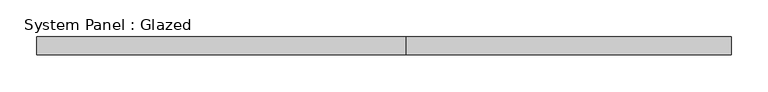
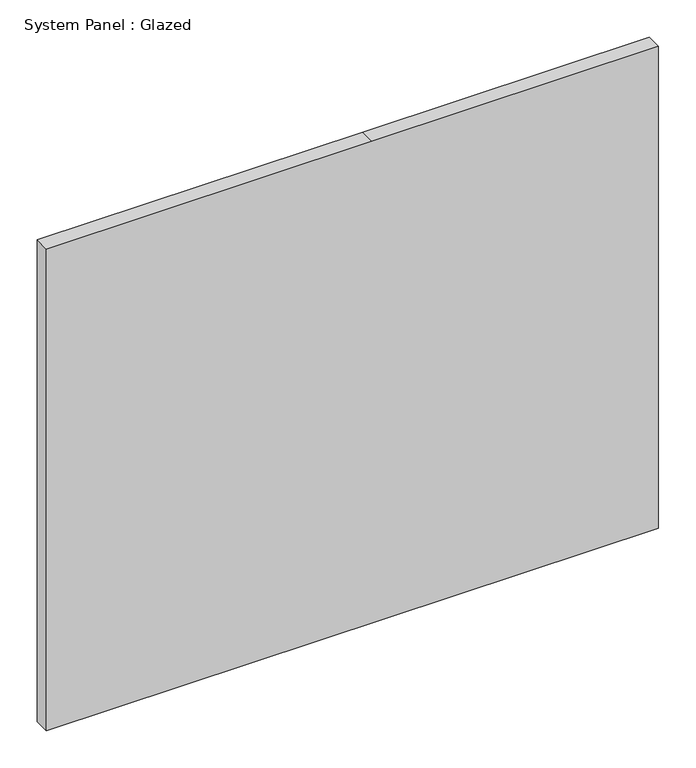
"""IFC4 building model written with IfcOpenShell, lengths in millimetres: plate geometry, System Panel : Glazed."""

from ifc_helpers import new_model, si_unit, frame, origin, place, context, project, spatial, polyline, outline, extrude, source, transform, mapped, element, save


def system_panel_glazed_3cd28d6c(model_context):
    return source(origin(), model_context, "Body", "SweptSolid", [
        extrude(outline(polyline([(0.0, -475.0), (0.0, 475.0), (790.592625, 475.0), (790.592625, 30.2574105), (790.592625, -475.0), (0.0, -475.0)])), frame((0.0, 24.5, 0.0), z_axis=(0.0, 1.0, 0.0), x_axis=(0.0, 0.0, 1.0)), (0.0, 0.0, 1.0), 25.0),
    ])


if __name__ == "__main__":
    model = new_model("IFC4")
    model_context = context("Model", 3, world=origin())
    ifc_project = project(units=[si_unit("LENGTHUNIT", "METRE", prefix="MILLI")], contexts=[model_context])
    site = spatial("IfcSite", under=ifc_project)
    building = spatial("IfcBuilding", under=site)
    placement = place(None, origin())
    system_panel_glazed_shape = system_panel_glazed_3cd28d6c(model_context)
    element("IfcPlate", 1, ObjectType="System Panel : Glazed", at=placement, inside=building, context=model_context, shape_type="MappedRepresentation", body=[
        mapped(system_panel_glazed_shape, transform((0.0, 0.0, 0.0), x_axis=(1.0, 0.0, 0.0), y_axis=(0.0, 1.0, 0.0), z_axis=(0.0, 0.0, 1.0))),
    ])
    save(model, "model.ifc")
